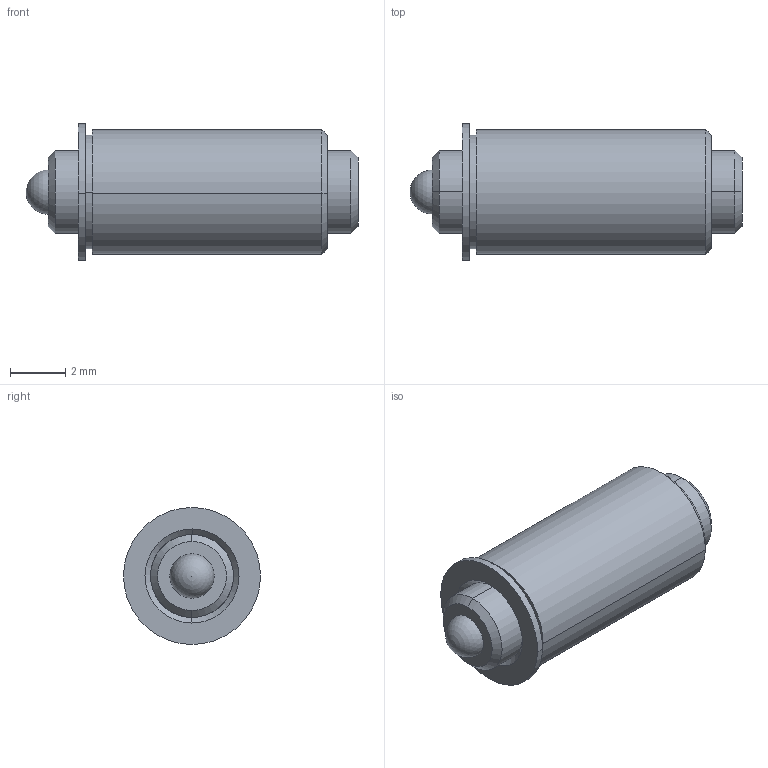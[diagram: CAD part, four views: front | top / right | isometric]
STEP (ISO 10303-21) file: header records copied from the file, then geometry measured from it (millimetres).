
FILE_DESCRIPTION (( 'STEP AP214' ), '1' );
FILE_NAME ('TSBM3-25-12_9.STEP', '2013-03-14T20:12:54', ( 'workpc' ), ( 'Microsoft' ), 'SwSTEP 2.0', 'SolidWorks 2013', '' );
FILE_SCHEMA (( 'AUTOMOTIVE_DESIGN' ));
Length unit declared in the file: inch
Products named in the file (1): TSBM3-25-12_9
Bounding box: 12 x 4.95 x 4.95 mm (x, y, z)
Surface area: 288.2 mm2 (no closed solid volume)
Topology: 0 solids, 3 shells, 32 faces, 75 edges, 49 vertices
Faces by surface type: plane 12, cone 10, cylinder 8, sphere 2
Entity records: 1325 total; most frequent: DIRECTION 170, CARTESIAN_POINT 149, ORIENTED_EDGE 128, EDGE_CURVE 70, AXIS2_PLACEMENT_3D 67, VERTEX_POINT 46, EDGE_LOOP 38, VECTOR 36
